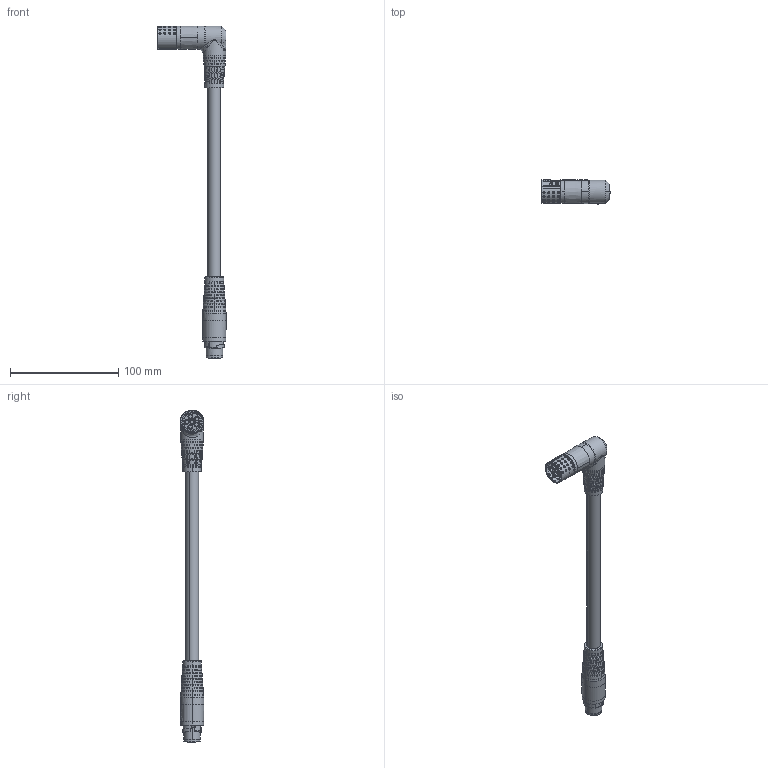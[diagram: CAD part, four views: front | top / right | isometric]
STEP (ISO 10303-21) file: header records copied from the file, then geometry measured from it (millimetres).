
FILE_DESCRIPTION (( 'STEP AP214' ), '1' );
FILE_NAME ('W-TEC 15M STI-BU_90°R.STEP', '2021-07-29T13:32:00', ( '' ), ( '' ), 'SwSTEP 2.0', 'SolidWorks 2021', '' );
FILE_SCHEMA (( 'AUTOMOTIVE_DESIGN' ));
Length unit declared in the file: millimetre
Products named in the file (1): W-TEC 15M STI-BU_90訌
Bounding box: 63.13 x 21.83 x 307.17 mm (x, y, z)
Surface area: 26036.7 mm2 (no closed solid volume)
Topology: 0 solids, 15 shells, 1289 faces, 3551 edges, 2219 vertices
Faces by surface type: bspline 618, plane 356, cylinder 198, cone 98, torus 19
Entity records: 84044 total; most frequent: CARTESIAN_POINT 43084, ORIENTED_EDGE 6687, DIRECTION 4004, EDGE_CURVE 3410, VERTEX_POINT 2219, AXIS2_PLACEMENT_3D 1555, EDGE_LOOP 1386, B_SPLINE_CURVE_WITH_KNOTS 1377
